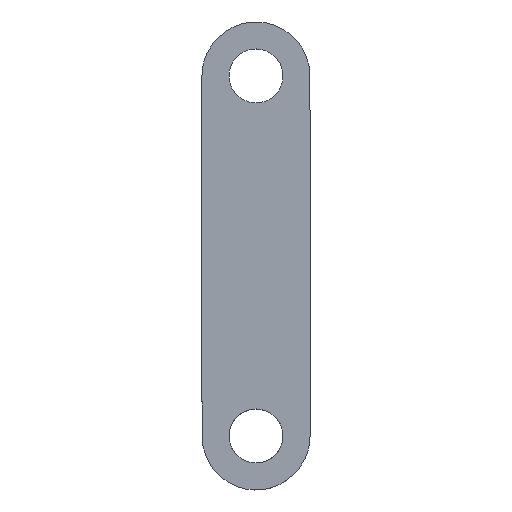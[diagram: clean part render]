
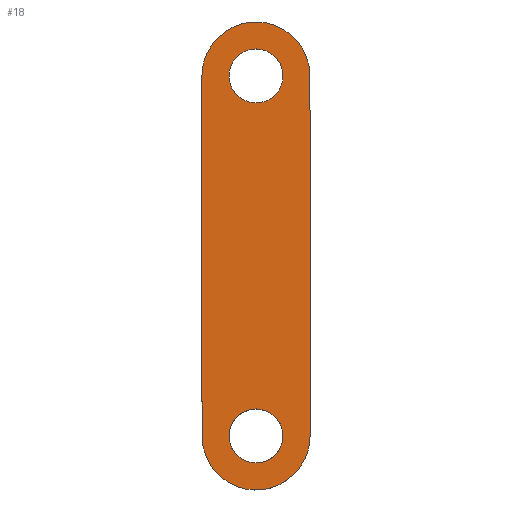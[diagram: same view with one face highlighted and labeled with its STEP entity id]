
A CAD part, top view. The second image highlights one B-rep face of the part: STEP entity #18.
In plain terms, the highlighted planar face has unit normal (0, 0, 1).
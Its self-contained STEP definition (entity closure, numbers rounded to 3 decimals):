
#18=ADVANCED_FACE('',(#30,#24,#25),#137,.T.);
#24=FACE_BOUND('',#41,.T.);
#25=FACE_BOUND('',#42,.T.);
#30=FACE_OUTER_BOUND('',#40,.T.);
#40=EDGE_LOOP('',(#64,#65));
#41=EDGE_LOOP('',(#66,#67));
#42=EDGE_LOOP('',(#68,#69));
#64=ORIENTED_EDGE('',*,*,#86,.T.);
#65=ORIENTED_EDGE('',*,*,#93,.T.);
#66=ORIENTED_EDGE('',*,*,#88,.T.);
#67=ORIENTED_EDGE('',*,*,#96,.T.);
#68=ORIENTED_EDGE('',*,*,#90,.T.);
#69=ORIENTED_EDGE('',*,*,#99,.T.);
#86=EDGE_CURVE('',#121,#125,#109,.T.);
#88=EDGE_CURVE('',#122,#127,#110,.T.);
#90=EDGE_CURVE('',#123,#129,#111,.T.);
#93=EDGE_CURVE('',#125,#121,#113,.T.);
#96=EDGE_CURVE('',#127,#122,#115,.T.);
#99=EDGE_CURVE('',#129,#123,#117,.T.);
#109=(
BOUNDED_CURVE()
B_SPLINE_CURVE(2,(#337,#338,#339,#340,#341,#342,#343),.UNSPECIFIED.,.F.,
 .F.)
B_SPLINE_CURVE_WITH_KNOTS((3,2,2,3),(471.239,871.239,
965.487,1059.734),.UNSPECIFIED.)
CURVE()
GEOMETRIC_REPRESENTATION_ITEM()
RATIONAL_B_SPLINE_CURVE((1.,1.,1.,0.707,1.,0.707,
1.))
REPRESENTATION_ITEM('')
);
#110=(
BOUNDED_CURVE()
B_SPLINE_CURVE(2,(#346,#347,#348,#349,#350),.UNSPECIFIED.,.F.,.F.)
B_SPLINE_CURVE_WITH_KNOTS((3,2,3),(-188.496,-141.372,
-94.248),.UNSPECIFIED.)
CURVE()
GEOMETRIC_REPRESENTATION_ITEM()
RATIONAL_B_SPLINE_CURVE((1.,0.707,1.,0.707,1.))
REPRESENTATION_ITEM('')
);
#111=(
BOUNDED_CURVE()
B_SPLINE_CURVE(2,(#353,#354,#355,#356,#357),.UNSPECIFIED.,.F.,.F.)
B_SPLINE_CURVE_WITH_KNOTS((3,2,3),(0.,47.124,94.248),
 .UNSPECIFIED.)
CURVE()
GEOMETRIC_REPRESENTATION_ITEM()
RATIONAL_B_SPLINE_CURVE((1.,0.707,1.,0.707,1.))
REPRESENTATION_ITEM('')
);
#113=(
BOUNDED_CURVE()
B_SPLINE_CURVE(2,(#367,#368,#369,#370,#371,#372,#373),.UNSPECIFIED.,.F.,
 .F.)
B_SPLINE_CURVE_WITH_KNOTS((3,2,2,3),(1059.734,1459.734,
1553.982,1648.23),.UNSPECIFIED.)
CURVE()
GEOMETRIC_REPRESENTATION_ITEM()
RATIONAL_B_SPLINE_CURVE((1.,1.,1.,0.707,1.,0.707,
1.))
REPRESENTATION_ITEM('')
);
#115=(
BOUNDED_CURVE()
B_SPLINE_CURVE(2,(#381,#382,#383,#384,#385),.UNSPECIFIED.,.F.,.F.)
B_SPLINE_CURVE_WITH_KNOTS((3,2,3),(-94.248,-47.124,
0.),.UNSPECIFIED.)
CURVE()
GEOMETRIC_REPRESENTATION_ITEM()
RATIONAL_B_SPLINE_CURVE((1.,0.707,1.,0.707,1.))
REPRESENTATION_ITEM('')
);
#117=(
BOUNDED_CURVE()
B_SPLINE_CURVE(2,(#393,#394,#395,#396,#397),.UNSPECIFIED.,.F.,.F.)
B_SPLINE_CURVE_WITH_KNOTS((3,2,3),(94.248,141.372,188.496),
 .UNSPECIFIED.)
CURVE()
GEOMETRIC_REPRESENTATION_ITEM()
RATIONAL_B_SPLINE_CURVE((1.,0.707,1.,0.707,1.))
REPRESENTATION_ITEM('')
);
#121=VERTEX_POINT('',#309);
#122=VERTEX_POINT('',#310);
#123=VERTEX_POINT('',#311);
#125=VERTEX_POINT('',#313);
#127=VERTEX_POINT('',#315);
#129=VERTEX_POINT('',#317);
#137=PLANE('',#227);
#227=AXIS2_PLACEMENT_3D('',#271,#232,$);
#232=DIRECTION('',(0.,0.,1.));
#271=CARTESIAN_POINT('',(-61.2,-465.2,10.));
#309=CARTESIAN_POINT('',(-60.,0.,10.));
#310=CARTESIAN_POINT('',(0.,30.,10.));
#311=CARTESIAN_POINT('',(0.,-430.,10.));
#313=CARTESIAN_POINT('',(60.,-400.,10.));
#315=CARTESIAN_POINT('',(0.,-30.,10.));
#317=CARTESIAN_POINT('',(0.,-370.,10.));
#337=CARTESIAN_POINT('',(-60.,0.,10.));
#338=CARTESIAN_POINT('',(-60.,-200.,10.));
#339=CARTESIAN_POINT('',(-60.,-400.,10.));
#340=CARTESIAN_POINT('',(-60.,-460.,10.));
#341=CARTESIAN_POINT('',(0.,-460.,10.));
#342=CARTESIAN_POINT('',(60.,-460.,10.));
#343=CARTESIAN_POINT('',(60.,-400.,10.));
#346=CARTESIAN_POINT('',(0.,30.,10.));
#347=CARTESIAN_POINT('',(30.,30.,10.));
#348=CARTESIAN_POINT('',(30.,0.,10.));
#349=CARTESIAN_POINT('',(30.,-30.,10.));
#350=CARTESIAN_POINT('',(0.,-30.,10.));
#353=CARTESIAN_POINT('',(0.,-430.,10.));
#354=CARTESIAN_POINT('',(-30.,-430.,10.));
#355=CARTESIAN_POINT('',(-30.,-400.,10.));
#356=CARTESIAN_POINT('',(-30.,-370.,10.));
#357=CARTESIAN_POINT('',(0.,-370.,10.));
#367=CARTESIAN_POINT('',(60.,-400.,10.));
#368=CARTESIAN_POINT('',(60.,-200.,10.));
#369=CARTESIAN_POINT('',(60.,0.,10.));
#370=CARTESIAN_POINT('',(60.,60.,10.));
#371=CARTESIAN_POINT('',(0.,60.,10.));
#372=CARTESIAN_POINT('',(-60.,60.,10.));
#373=CARTESIAN_POINT('',(-60.,0.,10.));
#381=CARTESIAN_POINT('',(0.,-30.,10.));
#382=CARTESIAN_POINT('',(-30.,-30.,10.));
#383=CARTESIAN_POINT('',(-30.,0.,10.));
#384=CARTESIAN_POINT('',(-30.,30.,10.));
#385=CARTESIAN_POINT('',(0.,30.,10.));
#393=CARTESIAN_POINT('',(0.,-370.,10.));
#394=CARTESIAN_POINT('',(30.,-370.,10.));
#395=CARTESIAN_POINT('',(30.,-400.,10.));
#396=CARTESIAN_POINT('',(30.,-430.,10.));
#397=CARTESIAN_POINT('',(0.,-430.,10.));
